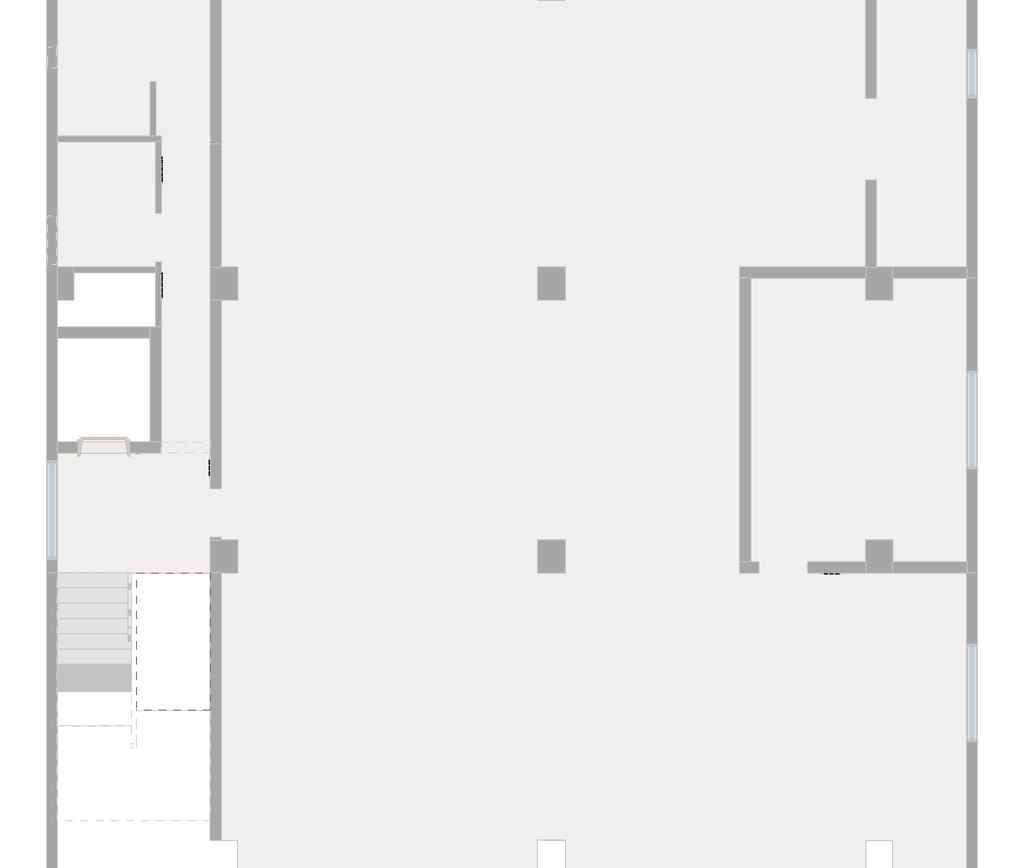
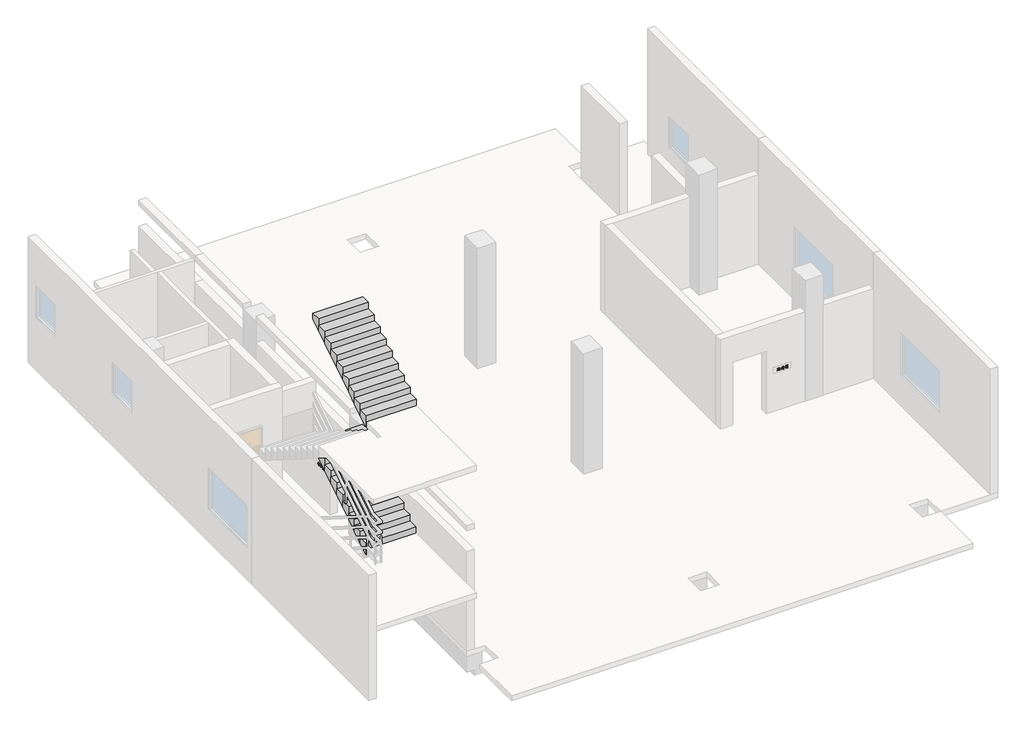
# One storey, part 3 of 3: 4 proxies, 2 stair flights.
"""IFC4 building model written with IfcOpenShell, lengths in millimetres."""

from ifc_helpers import new_model, si_unit, frame, origin, place, context, project, spatial, polyline, outline, extrude, faceted_brep, element, save

model = new_model("IFC4")

# Units and contexts
model_context = context("Model", 3, world=origin())
ifc_project = project(units=[si_unit("LENGTHUNIT", "METRE", prefix="MILLI")], contexts=[model_context])

# Site, building, storey
site = spatial("IfcSite", under=ifc_project)
building = spatial("IfcBuilding", under=site)
storey = spatial("IfcBuildingStorey", under=building, Name="3층", Elevation=7500.0)

# Proxies
placement = place(None, origin())
element("IfcBuildingElementProxy", 1, Name="600 mm Arial", ObjectType="600 mm Arial", at=placement, inside=storey, context=model_context, shape_type="SweptSolid", body=[
    extrude(outline(polyline([(10297.787199, 8717.7990058), (10300.6391665, 8717.0436198), (10301.7028733, 8715.3324394), (10300.7933269, 8713.0508654), (10298.1726, 8711.8792463), (10253.0652656, 8711.8792463), (10249.42708, 8715.3324394), (10253.0652656, 8717.7990058), (10297.787199, 8717.7990058)])), frame((1860.0, 0.0, 0.0), z_axis=(1.0, 0.0, 0.0), x_axis=(0.0, 1.0, 0.0)), (0.0, 0.0, 1.0), 10.0),
    extrude(outline(polyline([(10288.1213416, 8728.6518983), (10291.8366074, 8726.1853318), (10288.3063341, 8722.7321388), (10261.9449049, 8722.7321388), (10258.3067193, 8726.1853318), (10261.9449049, 8728.6518983), (10288.1213416, 8728.6518983)])), frame((1860.0, 0.0, 0.0), z_axis=(1.0, 0.0, 0.0), x_axis=(0.0, 1.0, 0.0)), (0.0, 0.0, 1.0), 10.0),
    extrude(outline(polyline([(10275.711429, 8706.9461133), (10292.0524319, 8702.2133889), (10297.771783, 8691.7921456), (10292.067848, 8680.4151077), (10279.0258777, 8676.3955749), (10279.0258777, 8663.5345434), (10288.8767276, 8664.8140747), (10301.0399835, 8668.4676763), (10305.6031315, 8667.0802327), (10303.5836302, 8662.640413), (10278.9025494, 8657.6147838), (10248.8104384, 8656.6281572), (10245.6501501, 8657.6456159), (10244.4939471, 8660.1275984), (10245.4497416, 8661.869611), (10248.3325412, 8662.5479168), (10258.3837995, 8662.640413), (10271.132865, 8662.9949819), (10271.132865, 8676.7526908), (10258.9696091, 8680.4151077), (10253.3735864, 8691.7921456), (10258.9696091, 8702.2133889), (10275.711429, 8706.9461133)]), holes=[polyline([(10275.711429, 8701.0263538), (10264.5347997, 8698.0356419), (10261.2665991, 8691.7921456), (10264.5502157, 8684.5774386), (10275.711429, 8681.293822), (10286.5643215, 8684.5774386), (10289.8787702, 8691.7921456), (10286.5951536, 8698.051058), (10275.711429, 8701.0263538)])]), frame((1860.0, 0.0, 0.0), z_axis=(1.0, 0.0, 0.0), x_axis=(0.0, 1.0, 0.0)), (0.0, 0.0, 1.0), 10.0),
    extrude(outline(polyline([(10315.5310616, 8693.1333411), (10324.7036057, 8693.1333411), (10327.3243325, 8692.4242032), (10328.3417912, 8690.7130227), (10327.5709892, 8688.3852006), (10325.1815029, 8687.2135815), (10315.5310616, 8687.2135815), (10315.5310616, 8654.4236634), (10314.159034, 8651.6796082), (10311.5383071, 8650.7083977), (10308.8713321, 8651.7104403), (10307.6380489, 8654.5624078), (10307.6380489, 8728.9448031), (10308.8867481, 8730.9488884), (10311.5383071, 8731.6117781), (10314.1282019, 8730.9334723), (10315.5310616, 8729.0218833), (10315.5310616, 8693.1333411)])), frame((1860.0, 0.0, 0.0), z_axis=(1.0, 0.0, 0.0), x_axis=(0.0, 1.0, 0.0)), (0.0, 0.0, 1.0), 10.0),
    extrude(outline(polyline([(10414.1937206, 8708.9193665), (10423.3662647, 8708.9193665), (10425.9869916, 8708.2410607), (10427.0044502, 8706.4990482), (10426.2182322, 8704.1249779), (10423.7516657, 8702.999607), (10414.1937206, 8702.999607), (10414.1937206, 8685.0861679), (10412.821693, 8682.1879523), (10410.2009661, 8681.293822), (10407.5339911, 8682.1879523), (10406.3007079, 8685.1478321), (10406.3007079, 8729.0372993), (10410.2009661, 8731.6117781), (10414.1937206, 8729.1760437), (10414.1937206, 8708.9193665)])), frame((1860.0, 0.0, 0.0), z_axis=(1.0, 0.0, 0.0), x_axis=(0.0, 1.0, 0.0)), (0.0, 0.0, 1.0), 10.0),
    extrude(outline(polyline([(10383.6545444, 8680.3071954), (10407.2873345, 8676.0832003), (10413.207094, 8671.4699502), (10415.1803472, 8665.8623655), (10413.207094, 8659.7460514), (10407.2873345, 8655.024889), (10383.6545444, 8650.7083977), (10359.9138421, 8655.024889), (10354.0056446, 8659.7383434), (10352.0362454, 8665.8623655), (10354.0056446, 8671.4699502), (10359.9138421, 8676.0832003), (10383.6545444, 8680.3071954)]), holes=[polyline([(10383.6545444, 8674.3874359), (10365.1707119, 8671.8437892), (10359.9292581, 8665.9086136), (10365.1707119, 8659.3259643), (10383.6545444, 8656.6281572), (10401.9379684, 8659.3259643), (10407.2873345, 8665.9086136), (10401.9379684, 8671.8437892), (10383.6545444, 8674.3874359)])]), frame((1860.0, 0.0, 0.0), z_axis=(1.0, 0.0, 0.0), x_axis=(0.0, 1.0, 0.0)), (0.0, 0.0, 1.0), 10.0),
    extrude(outline(polyline([(10395.5865598, 8729.6385249), (10398.9626726, 8727.2182066), (10395.5865598, 8723.7187654), (10377.6885368, 8723.7187654), (10377.6885368, 8721.7609282), (10379.3804472, 8712.3802676), (10384.4561785, 8704.6182912), (10399.1784972, 8695.1065943), (10401.382991, 8693.6112383), (10401.1363343, 8691.1138398), (10398.8855924, 8689.2484989), (10395.5248956, 8689.4643234), (10381.4038025, 8698.1898023), (10373.603286, 8709.3201836), (10366.2035866, 8697.6348249), (10351.1883632, 8688.2156242), (10348.2593155, 8688.3543685), (10346.2398142, 8690.2351255), (10345.9931576, 8692.6091957), (10348.1976513, 8694.1199677), (10363.4595314, 8704.2791383), (10368.2115259, 8712.0642388), (10369.795524, 8721.5451037), (10369.795524, 8723.7187654), (10351.8975011, 8723.7187654), (10348.3363957, 8727.2182066), (10351.9899973, 8729.6385249), (10395.5865598, 8729.6385249)])), frame((1860.0, 0.0, 0.0), z_axis=(1.0, 0.0, 0.0), x_axis=(0.0, 1.0, 0.0)), (0.0, 0.0, 1.0), 10.0),
    extrude(outline(polyline([(10515.8162594, 8692.8404363), (10514.4442318, 8690.065549), (10511.869753, 8689.1868347), (10509.1565299, 8690.0809651), (10507.9232467, 8692.8404363), (10507.9232467, 8728.9448031), (10509.1565299, 8730.9488884), (10511.869753, 8731.6117781), (10514.4288158, 8730.9488884), (10515.8162594, 8729.0527154), (10515.8162594, 8692.8404363)])), frame((1860.0, 0.0, 0.0), z_axis=(1.0, 0.0, 0.0), x_axis=(0.0, 1.0, 0.0)), (0.0, 0.0, 1.0), 10.0),
    extrude(outline(polyline([(10506.150402, 8685.2403284), (10513.2571967, 8683.3441554), (10515.8162594, 8678.1181177), (10515.8162594, 8674.0328669), (10513.365109, 8668.5293405), (10507.1986928, 8666.4944231), (10462.0296942, 8666.4944231), (10459.9639448, 8666.0011098), (10459.5785438, 8664.2590973), (10459.5785438, 8660.3280069), (10460.0256089, 8658.2160094), (10461.9063659, 8657.6147838), (10513.8738383, 8657.6147838), (10517.7740965, 8655.1944655), (10516.8799662, 8652.8049792), (10514.2438233, 8651.6950243), (10459.9947769, 8651.6950243), (10454.0904334, 8653.8378539), (10451.685531, 8659.6805332), (10451.685531, 8665.4153003), (10453.9979371, 8670.5334257), (10459.8406165, 8672.4141827), (10505.2871038, 8672.4141827), (10507.3528532, 8672.9691601), (10507.9232467, 8674.834501), (10507.9232467, 8677.3318996), (10507.4607655, 8678.8580876), (10505.2100236, 8679.3205688), (10455.5241251, 8679.3205688), (10451.685531, 8682.7891779), (10455.5395412, 8685.2403284), (10506.150402, 8685.2403284)])), frame((1860.0, 0.0, 0.0), z_axis=(1.0, 0.0, 0.0), x_axis=(0.0, 1.0, 0.0)), (0.0, 0.0, 1.0), 10.0),
    extrude(outline(polyline([(10465.4983033, 8726.7865574), (10466.7624186, 8728.9756352), (10469.3985615, 8729.6385249), (10472.0038724, 8728.9756352), (10473.391316, 8726.7865574), (10472.63593, 8721.0826225), (10470.9555816, 8715.6407602), (10484.5062812, 8706.4682161), (10495.1433491, 8694.3666243), (10495.8987351, 8692.2083786), (10494.4342113, 8689.7263961), (10491.7364042, 8689.0789224), (10488.9461009, 8690.7901029), (10479.3573237, 8702.0283964), (10468.5506793, 8710.1526498), (10461.1201478, 8699.2380931), (10449.1573004, 8688.0306317), (10446.1049244, 8687.2598297), (10443.8233504, 8688.7089375), (10443.1758767, 8691.206336), (10445.1491299, 8693.117925), (10460.7501628, 8710.8463716), (10465.4983033, 8726.7865574)])), frame((1860.0, 0.0, 0.0), z_axis=(1.0, 0.0, 0.0), x_axis=(0.0, 1.0, 0.0)), (0.0, 0.0, 1.0), 10.0),
    extrude(outline(polyline([(10556.6225185, 8735.2345476), (10559.3665737, 8736.4678308), (10562.0797969, 8735.9899336), (10563.7601453, 8734.2787531), (10563.1435037, 8731.3497054), (10553.4313982, 8712.4804719), (10550.3481901, 8691.6379851), (10553.1539094, 8670.2713531), (10562.9893433, 8651.957097), (10564.0684661, 8649.290122), (10562.6810224, 8646.5460668), (10559.7673908, 8645.5286081), (10556.6995987, 8647.2089565), (10545.5846336, 8667.8818668), (10542.4551773, 8691.6379851), (10545.7850421, 8714.052908), (10556.6225185, 8735.2345476)])), frame((1860.0, 0.0, 0.0), z_axis=(1.0, 0.0, 0.0), x_axis=(0.0, 1.0, 0.0)), (0.0, 0.0, 1.0), 10.0),
    extrude(outline(polyline([(10604.7513969, 8728.6518983), (10614.5598527, 8726.0350255), (10621.7552895, 8718.1844068), (10625.3973917, 8708.5766763), (10626.4263498, 8710.2143139), (10629.4324777, 8710.8926197), (10644.0777161, 8710.8926197), (10644.0777161, 8728.8060587), (10645.2955833, 8730.8563921), (10648.0242225, 8731.6117781), (10650.6141173, 8730.9488884), (10651.9707289, 8728.8368908), (10651.9707289, 8654.6549041), (10650.6449494, 8651.7258564), (10648.0242225, 8650.7083977), (10645.2647513, 8651.7412724), (10644.0777161, 8654.6857361), (10644.0777161, 8678.3339422), (10629.2629013, 8678.3339422), (10625.8552008, 8680.4777179), (10621.7552895, 8669.6547114), (10614.4211083, 8661.3647357), (10604.7513969, 8658.6014104), (10594.9082551, 8661.3647357), (10587.4545995, 8669.6547114), (10583.3038306, 8680.6270782), (10581.920241, 8694.0274714), (10583.3038306, 8707.2197481), (10587.4545995, 8718.1844068), (10594.7695107, 8726.0350255), (10604.7513969, 8728.6518983)]), holes=[polyline([(10626.2062694, 8683.4271544), (10629.2629013, 8684.2537018), (10644.0777161, 8684.2537018), (10644.0777161, 8704.9728602), (10629.5249739, 8704.9728602), (10625.9314286, 8707.0731936), (10627.3050641, 8694.0274714), (10626.2062694, 8683.4271544)]), polyline([(10604.7051488, 8722.7321388), (10598.4115503, 8720.6432653), (10593.6210157, 8714.3766448), (10589.8132537, 8694.0737195), (10593.6210157, 8673.5241376), (10598.5425866, 8666.7719119), (10604.7051488, 8664.52117), (10610.7174046, 8666.7719119), (10615.5888734, 8673.5241376), (10619.4120514, 8694.0737195), (10615.5888734, 8714.3766448), (10610.8484409, 8720.6432653), (10604.7051488, 8722.7321388)])]), frame((1860.0, 0.0, 0.0), z_axis=(1.0, 0.0, 0.0), x_axis=(0.0, 1.0, 0.0)), (0.0, 0.0, 1.0), 10.0),
    extrude(outline(polyline([(10683.1265467, 8735.2345476), (10693.902359, 8714.052908), (10697.355552, 8691.6379851), (10694.1027675, 8667.8818668), (10683.0802985, 8647.2089565), (10679.9200102, 8645.5286081), (10676.9909626, 8646.5460668), (10675.618935, 8649.290122), (10676.8059701, 8651.957097), (10686.5334916, 8670.2713531), (10689.4625393, 8691.6379851), (10686.2560029, 8712.4804719), (10676.6363936, 8731.3342894), (10675.9118397, 8734.2787531), (10677.6076042, 8735.9899336), (10680.2899952, 8736.4678308), (10683.1265467, 8735.2345476)])), frame((1860.0, 0.0, 0.0), z_axis=(1.0, 0.0, 0.0), x_axis=(0.0, 1.0, 0.0)), (0.0, 0.0, 1.0), 10.0),
])
element("IfcBuildingElementProxy", 2, Name="600 mm Arial", ObjectType="600 mm Arial", at=placement, inside=storey, context=model_context, shape_type="SweptSolid", body=[
    extrude(outline(polyline([(12417.787199, 8717.7990058), (12420.6391665, 8717.0436198), (12421.7028733, 8715.3324394), (12420.7933269, 8713.0508654), (12418.1726, 8711.8792463), (12373.0652656, 8711.8792463), (12369.42708, 8715.3324394), (12373.0652656, 8717.7990058), (12417.787199, 8717.7990058)])), frame((1860.0, 0.0, 0.0), z_axis=(1.0, 0.0, 0.0), x_axis=(0.0, 1.0, 0.0)), (0.0, 0.0, 1.0), 10.0),
    extrude(outline(polyline([(12408.1213416, 8728.6518983), (12411.8366074, 8726.1853318), (12408.3063341, 8722.7321388), (12381.9449049, 8722.7321388), (12378.3067193, 8726.1853318), (12381.9449049, 8728.6518983), (12408.1213416, 8728.6518983)])), frame((1860.0, 0.0, 0.0), z_axis=(1.0, 0.0, 0.0), x_axis=(0.0, 1.0, 0.0)), (0.0, 0.0, 1.0), 10.0),
    extrude(outline(polyline([(12395.711429, 8706.9461133), (12412.0524319, 8702.2133889), (12417.771783, 8691.7921456), (12412.067848, 8680.4151077), (12399.0258777, 8676.3955749), (12399.0258777, 8663.5345434), (12408.8767276, 8664.8140747), (12421.0399835, 8668.4676763), (12425.6031315, 8667.0802327), (12423.5836302, 8662.640413), (12398.9025494, 8657.6147838), (12368.8104384, 8656.6281572), (12365.6501501, 8657.6456159), (12364.4939471, 8660.1275984), (12365.4497416, 8661.869611), (12368.3325412, 8662.5479168), (12378.3837995, 8662.640413), (12391.132865, 8662.9949819), (12391.132865, 8676.7526908), (12378.9696091, 8680.4151077), (12373.3735864, 8691.7921456), (12378.9696091, 8702.2133889), (12395.711429, 8706.9461133)]), holes=[polyline([(12395.711429, 8701.0263538), (12384.5347997, 8698.0356419), (12381.2665991, 8691.7921456), (12384.5502157, 8684.5774386), (12395.711429, 8681.293822), (12406.5643215, 8684.5774386), (12409.8787702, 8691.7921456), (12406.5951536, 8698.051058), (12395.711429, 8701.0263538)])]), frame((1860.0, 0.0, 0.0), z_axis=(1.0, 0.0, 0.0), x_axis=(0.0, 1.0, 0.0)), (0.0, 0.0, 1.0), 10.0),
    extrude(outline(polyline([(12435.5310616, 8693.1333411), (12444.7036057, 8693.1333411), (12447.3243325, 8692.4242032), (12448.3417912, 8690.7130227), (12447.5709892, 8688.3852006), (12445.1815029, 8687.2135815), (12435.5310616, 8687.2135815), (12435.5310616, 8654.4236634), (12434.159034, 8651.6796082), (12431.5383071, 8650.7083977), (12428.8713321, 8651.7104403), (12427.6380489, 8654.5624078), (12427.6380489, 8728.9448031), (12428.8867481, 8730.9488884), (12431.5383071, 8731.6117781), (12434.1282019, 8730.9334723), (12435.5310616, 8729.0218833), (12435.5310616, 8693.1333411)])), frame((1860.0, 0.0, 0.0), z_axis=(1.0, 0.0, 0.0), x_axis=(0.0, 1.0, 0.0)), (0.0, 0.0, 1.0), 10.0),
    extrude(outline(polyline([(12534.1937206, 8708.9193665), (12543.3662647, 8708.9193665), (12545.9869916, 8708.2410607), (12547.0044502, 8706.4990482), (12546.2182322, 8704.1249779), (12543.7516657, 8702.999607), (12534.1937206, 8702.999607), (12534.1937206, 8685.0861679), (12532.821693, 8682.1879523), (12530.2009661, 8681.293822), (12527.5339911, 8682.1879523), (12526.3007079, 8685.1478321), (12526.3007079, 8729.0372993), (12530.2009661, 8731.6117781), (12534.1937206, 8729.1760437), (12534.1937206, 8708.9193665)])), frame((1860.0, 0.0, 0.0), z_axis=(1.0, 0.0, 0.0), x_axis=(0.0, 1.0, 0.0)), (0.0, 0.0, 1.0), 10.0),
    extrude(outline(polyline([(12503.6545444, 8680.3071954), (12527.2873345, 8676.0832003), (12533.207094, 8671.4699502), (12535.1803472, 8665.8623655), (12533.207094, 8659.7460514), (12527.2873345, 8655.024889), (12503.6545444, 8650.7083977), (12479.9138421, 8655.024889), (12474.0056446, 8659.7383434), (12472.0362454, 8665.8623655), (12474.0056446, 8671.4699502), (12479.9138421, 8676.0832003), (12503.6545444, 8680.3071954)]), holes=[polyline([(12503.6545444, 8674.3874359), (12485.1707119, 8671.8437892), (12479.9292581, 8665.9086136), (12485.1707119, 8659.3259643), (12503.6545444, 8656.6281572), (12521.9379684, 8659.3259643), (12527.2873345, 8665.9086136), (12521.9379684, 8671.8437892), (12503.6545444, 8674.3874359)])]), frame((1860.0, 0.0, 0.0), z_axis=(1.0, 0.0, 0.0), x_axis=(0.0, 1.0, 0.0)), (0.0, 0.0, 1.0), 10.0),
    extrude(outline(polyline([(12515.5865598, 8729.6385249), (12518.9626726, 8727.2182066), (12515.5865598, 8723.7187654), (12497.6885368, 8723.7187654), (12497.6885368, 8721.7609282), (12499.3804472, 8712.3802676), (12504.4561785, 8704.6182912), (12519.1784972, 8695.1065943), (12521.382991, 8693.6112383), (12521.1363343, 8691.1138398), (12518.8855924, 8689.2484989), (12515.5248956, 8689.4643234), (12501.4038025, 8698.1898023), (12493.603286, 8709.3201836), (12486.2035866, 8697.6348249), (12471.1883632, 8688.2156242), (12468.2593155, 8688.3543685), (12466.2398142, 8690.2351255), (12465.9931576, 8692.6091957), (12468.1976513, 8694.1199677), (12483.4595314, 8704.2791383), (12488.2115259, 8712.0642388), (12489.795524, 8721.5451037), (12489.795524, 8723.7187654), (12471.8975011, 8723.7187654), (12468.3363957, 8727.2182066), (12471.9899973, 8729.6385249), (12515.5865598, 8729.6385249)])), frame((1860.0, 0.0, 0.0), z_axis=(1.0, 0.0, 0.0), x_axis=(0.0, 1.0, 0.0)), (0.0, 0.0, 1.0), 10.0),
    extrude(outline(polyline([(12635.8162594, 8692.8404363), (12634.4442318, 8690.065549), (12631.869753, 8689.1868347), (12629.1565299, 8690.0809651), (12627.9232467, 8692.8404363), (12627.9232467, 8728.9448031), (12629.1565299, 8730.9488884), (12631.869753, 8731.6117781), (12634.4288158, 8730.9488884), (12635.8162594, 8729.0527154), (12635.8162594, 8692.8404363)])), frame((1860.0, 0.0, 0.0), z_axis=(1.0, 0.0, 0.0), x_axis=(0.0, 1.0, 0.0)), (0.0, 0.0, 1.0), 10.0),
    extrude(outline(polyline([(12626.150402, 8685.2403284), (12633.2571967, 8683.3441554), (12635.8162594, 8678.1181177), (12635.8162594, 8674.0328669), (12633.365109, 8668.5293405), (12627.1986928, 8666.4944231), (12582.0296942, 8666.4944231), (12579.9639448, 8666.0011098), (12579.5785438, 8664.2590973), (12579.5785438, 8660.3280069), (12580.0256089, 8658.2160094), (12581.9063659, 8657.6147838), (12633.8738383, 8657.6147838), (12637.7740965, 8655.1944655), (12636.8799662, 8652.8049792), (12634.2438233, 8651.6950243), (12579.9947769, 8651.6950243), (12574.0904334, 8653.8378539), (12571.685531, 8659.6805332), (12571.685531, 8665.4153003), (12573.9979371, 8670.5334257), (12579.8406165, 8672.4141827), (12625.2871038, 8672.4141827), (12627.3528532, 8672.9691601), (12627.9232467, 8674.834501), (12627.9232467, 8677.3318996), (12627.4607655, 8678.8580876), (12625.2100236, 8679.3205688), (12575.5241251, 8679.3205688), (12571.685531, 8682.7891779), (12575.5395412, 8685.2403284), (12626.150402, 8685.2403284)])), frame((1860.0, 0.0, 0.0), z_axis=(1.0, 0.0, 0.0), x_axis=(0.0, 1.0, 0.0)), (0.0, 0.0, 1.0), 10.0),
    extrude(outline(polyline([(12585.4983033, 8726.7865574), (12586.7624186, 8728.9756352), (12589.3985615, 8729.6385249), (12592.0038724, 8728.9756352), (12593.391316, 8726.7865574), (12592.63593, 8721.0826225), (12590.9555816, 8715.6407602), (12604.5062812, 8706.4682161), (12615.1433491, 8694.3666243), (12615.8987351, 8692.2083786), (12614.4342113, 8689.7263961), (12611.7364042, 8689.0789224), (12608.9461009, 8690.7901029), (12599.3573237, 8702.0283964), (12588.5506793, 8710.1526498), (12581.1201478, 8699.2380931), (12569.1573004, 8688.0306317), (12566.1049244, 8687.2598297), (12563.8233504, 8688.7089375), (12563.1758767, 8691.206336), (12565.1491299, 8693.117925), (12580.7501628, 8710.8463716), (12585.4983033, 8726.7865574)])), frame((1860.0, 0.0, 0.0), z_axis=(1.0, 0.0, 0.0), x_axis=(0.0, 1.0, 0.0)), (0.0, 0.0, 1.0), 10.0),
    extrude(outline(polyline([(12676.6225185, 8735.2345476), (12679.3665737, 8736.4678308), (12682.0797969, 8735.9899336), (12683.7601453, 8734.2787531), (12683.1435037, 8731.3497054), (12673.4313982, 8712.4804719), (12670.3481901, 8691.6379851), (12673.1539094, 8670.2713531), (12682.9893433, 8651.957097), (12684.0684661, 8649.290122), (12682.6810224, 8646.5460668), (12679.7673908, 8645.5286081), (12676.6995987, 8647.2089565), (12665.5846336, 8667.8818668), (12662.4551773, 8691.6379851), (12665.7850421, 8714.052908), (12676.6225185, 8735.2345476)])), frame((1860.0, 0.0, 0.0), z_axis=(1.0, 0.0, 0.0), x_axis=(0.0, 1.0, 0.0)), (0.0, 0.0, 1.0), 10.0),
    extrude(outline(polyline([(12702.9068676, 8726.8019735), (12704.1401508, 8728.8831389), (12706.8071258, 8729.6385249), (12709.4124366, 8728.9756352), (12710.7998803, 8726.8944697), (12710.7998803, 8702.5525418), (12711.9406673, 8698.4981232), (12715.7792613, 8697.0798474), (12734.3710062, 8697.7581532), (12752.1919489, 8699.9934791), (12755.4909816, 8699.947231), (12757.1250819, 8698.451875), (12756.8321771, 8696.0161406), (12754.3193625, 8694.1507997), (12735.3730488, 8691.8538097), (12713.75976, 8691.1600879), (12705.758835, 8694.4899526), (12702.9068676, 8702.4446295), (12702.9068676, 8726.8019735)])), frame((1860.0, 0.0, 0.0), z_axis=(1.0, 0.0, 0.0), x_axis=(0.0, 1.0, 0.0)), (0.0, 0.0, 1.0), 10.0),
    extrude(outline(polyline([(12769.0108491, 8708.9193665), (12778.3838017, 8708.9193665), (12781.8369948, 8706.4990482), (12778.3838017, 8702.999607), (12769.0108491, 8702.999607), (12769.0108491, 8691.0675917), (12767.6542375, 8688.2002081), (12765.0180946, 8687.2135815), (12762.3511196, 8688.2002081), (12761.1178364, 8691.0367596), (12761.1178364, 8729.0527154), (12765.0180946, 8731.6117781), (12769.0108491, 8729.0835475), (12769.0108491, 8708.9193665)])), frame((1860.0, 0.0, 0.0), z_axis=(1.0, 0.0, 0.0), x_axis=(0.0, 1.0, 0.0)), (0.0, 0.0, 1.0), 10.0),
    extrude(outline(polyline([(12759.3912398, 8681.293822), (12766.3284581, 8679.4593132), (12769.0108491, 8674.5570123), (12769.0108491, 8661.0833929), (12766.3592901, 8654.7319843), (12759.7766409, 8652.6816509), (12717.8450108, 8652.6816509), (12710.1369905, 8655.0557211), (12707.8400005, 8661.5612902), (12707.8400005, 8674.1716113), (12710.2449028, 8679.2743207), (12716.5963115, 8681.293822), (12759.3912398, 8681.293822)]), holes=[polyline([(12761.1178364, 8673.0924885), (12760.4703627, 8674.8807492), (12757.8342198, 8675.3740624), (12718.6312288, 8675.3740624), (12716.1646624, 8674.7728369), (12715.7330132, 8672.907496), (12715.7330132, 8662.0546035), (12716.3188228, 8659.3722124), (12719.0166298, 8658.6014104), (12758.0192122, 8658.6014104), (12760.4703627, 8659.2797162), (12761.1178364, 8661.6692025), (12761.1178364, 8673.0924885)])]), frame((1860.0, 0.0, 0.0), z_axis=(1.0, 0.0, 0.0), x_axis=(0.0, 1.0, 0.0)), (0.0, 0.0, 1.0), 10.0),
    extrude(outline(polyline([(12803.1265467, 8735.2345476), (12813.902359, 8714.052908), (12817.355552, 8691.6379851), (12814.1027675, 8667.8818668), (12803.0802985, 8647.2089565), (12799.9200102, 8645.5286081), (12796.9909626, 8646.5460668), (12795.618935, 8649.290122), (12796.8059701, 8651.957097), (12806.5334916, 8670.2713531), (12809.4625393, 8691.6379851), (12806.2560029, 8712.4804719), (12796.6363936, 8731.3342894), (12795.9118397, 8734.2787531), (12797.6076042, 8735.9899336), (12800.2899952, 8736.4678308), (12803.1265467, 8735.2345476)])), frame((1860.0, 0.0, 0.0), z_axis=(1.0, 0.0, 0.0), x_axis=(0.0, 1.0, 0.0)), (0.0, 0.0, 1.0), 10.0),
])
element("IfcBuildingElementProxy", 3, Name="600 mm Arial", ObjectType="600 mm Arial", at=placement, inside=storey, context=model_context, shape_type="SweptSolid", body=[
    extrude(outline(polyline([(7188.5637707, 8686.2433766), (7189.7662218, 8692.1477201), (7201.4361645, 8692.1477201), (7202.5615354, 8722.7331444), (7211.3178464, 8721.6540216), (7210.1924755, 8643.8030172), (7201.4361645, 8644.9129721), (7201.4361645, 8685.241334), (7188.5637707, 8686.2433766)])), frame((2730.0, 0.0, 0.0), z_axis=(1.0, 0.0, 0.0), x_axis=(0.0, 1.0, 0.0)), (0.0, 0.0, 1.0), 10.0),
    extrude(outline(polyline([(7258.8609152, 8662.5489224), (7254.189855, 8667.0581142), (7249.5958749, 8672.7235091), (7245.3872959, 8679.2059541), (7241.8724386, 8686.2433766), (7238.951099, 8680.5163176), (7235.0508407, 8674.7584264), (7230.6264371, 8669.5555128), (7226.2405736, 8665.5088022), (7223.4965184, 8665.6783786), (7219.8891649, 8669.8715416), (7220.0741574, 8672.4151883), (7225.6085159, 8677.4562335), (7230.7960135, 8683.9078465), (7234.9968846, 8691.2073416), (7237.6638596, 8698.7920335), (7236.5461966, 8707.5020964), (7237.3247067, 8718.5245654), (7246.1580979, 8717.5071067), (7246.2505941, 8710.3386479), (7246.8518197, 8703.8176627), (7248.0080227, 8697.6358305), (7249.7654514, 8691.5002464), (7256.11686, 8679.5913551), (7265.643973, 8669.4553085), (7265.9060457, 8666.6341731), (7261.8670431, 8662.6414186), (7258.8609152, 8662.5489224)])), frame((2730.0, 0.0, 0.0), z_axis=(1.0, 0.0, 0.0), x_axis=(0.0, 1.0, 0.0)), (0.0, 0.0, 1.0), 10.0),
    extrude(outline(polyline([(7085.1838033, 8673.5713913), (7086.4787507, 8679.3215744), (7162.4335821, 8678.2424516), (7161.2311309, 8672.4151883), (7128.6107893, 8672.4151883), (7128.6107893, 8645.0208844), (7127.4083381, 8643.8030172), (7119.9469745, 8643.8030172), (7118.7445234, 8645.0208844), (7118.7445234, 8672.4151883), (7085.1838033, 8673.5713913)])), frame((2730.0, 0.0, 0.0), z_axis=(1.0, 0.0, 0.0), x_axis=(0.0, 1.0, 0.0)), (0.0, 0.0, 1.0), 10.0),
    extrude(outline(polyline([(7096.6841695, 8695.2309282), (7096.6841695, 8716.6900565), (7098.017657, 8721.438197), (7103.2051546, 8722.7331444), (7144.9209601, 8722.7331444), (7149.6074364, 8721.3996569), (7151.0257121, 8716.7825528), (7151.0257121, 8695.3080084), (7149.6922246, 8690.567576), (7144.489311, 8689.1878403), (7102.7735054, 8689.1878403), (7098.1024452, 8690.567576), (7096.6841695, 8695.2309282)]), holes=[polyline([(7106.5504354, 8714.5318109), (7107.6758063, 8696.0942265), (7141.06695, 8697.4970861), (7139.941579, 8715.8267583), (7106.5504354, 8714.5318109)])]), frame((2730.0, 0.0, 0.0), z_axis=(1.0, 0.0, 0.0), x_axis=(0.0, 1.0, 0.0)), (0.0, 0.0, 1.0), 10.0),
    extrude(outline(polyline([(6987.2919463, 8644.8513079), (6988.4943974, 8650.7094033), (7030.0406265, 8651.9426865), (7029.0077518, 8657.6157894), (6995.3699515, 8657.6157894), (6990.6834752, 8658.6640802), (6989.5272721, 8662.5489224), (6989.5272721, 8672.3381081), (6990.6834752, 8676.2152423), (6995.3699515, 8677.3483212), (7039.9068924, 8676.3000305), (7038.7198573, 8670.4419351), (6999.1468814, 8669.1007396), (7000.1797561, 8664.5221756), (7034.0796291, 8664.5221756), (7038.5811129, 8663.2966004), (7039.7373159, 8659.357802), (7039.7373159, 8649.0444709), (7038.5348648, 8645.0748405), (7033.9871328, 8643.8030172), (6987.2919463, 8644.8513079)])), frame((2730.0, 0.0, 0.0), z_axis=(1.0, 0.0, 0.0), x_axis=(0.0, 1.0, 0.0)), (0.0, 0.0, 1.0), 10.0),
    extrude(outline(polyline([(7049.0948525, 8681.2948276), (7038.6736091, 8688.5557827), (7031.0735012, 8698.1291438), (7023.388605, 8690.0203065), (7013.8229519, 8684.2547074), (7011.587626, 8684.886765), (7008.6739944, 8689.1724243), (7009.1827237, 8691.1610935), (7014.0310685, 8693.6893241), (7018.9719094, 8697.2889696), (7023.5196414, 8701.8521176), (7027.1269948, 8707.0704473), (7025.9245437, 8713.2908196), (7025.4928945, 8720.1124175), (7026.6028495, 8721.4073649), (7035.3591604, 8720.4669865), (7039.9993886, 8701.1198557), (7055.2766847, 8685.7192312), (7051.8389077, 8681.3873239), (7049.0948525, 8681.2948276)])), frame((2730.0, 0.0, 0.0), z_axis=(1.0, 0.0, 0.0), x_axis=(0.0, 1.0, 0.0)), (0.0, 0.0, 1.0), 10.0),
    extrude(outline(polyline([(6989.5272721, 8682.3739504), (6990.637227, 8722.7331444), (6999.393538, 8721.6540216), (6999.393538, 8682.4664467), (6998.2835831, 8681.2948276), (6989.5272721, 8682.3739504)])), frame((2730.0, 0.0, 0.0), z_axis=(1.0, 0.0, 0.0), x_axis=(0.0, 1.0, 0.0)), (0.0, 0.0, 1.0), 10.0),
])
element("IfcBuildingElementProxy", 4, Name="600 mm Arial", ObjectType="600 mm Arial", at=placement, inside=storey, context=model_context, shape_type="SweptSolid", body=[
    extrude(outline(polyline([(8659.5359352, 13989.4811699), (8653.8320002, 13990.7607013), (8653.8320002, 14004.0724522), (8653.8320002, 14018.44791), (8654.4332258, 14032.1373539), (8657.1156169, 14044.5010184), (8662.7116396, 14042.3581887), (8661.5400205, 14032.4456747), (8660.7383864, 14021.4077897), (8668.6313991, 14021.4077897), (8670.3348716, 14027.1117247), (8673.2947513, 14031.6671647), (8677.2875058, 14034.7118327), (8682.1975147, 14035.8217876), (8687.9014497, 14034.3649718), (8692.3489774, 14030.3336772), (8695.2163609, 14024.2828813), (8696.2569436, 14016.8600578), (8695.2240689, 14009.5605626), (8692.3721014, 14003.5560149), (8687.9476978, 13999.4784722), (8682.2745949, 13997.9754082), (8677.4031261, 13999.0082829), (8673.3872476, 14001.8833745), (8670.4119518, 14006.26153), (8668.6313991, 14011.7881805), (8660.7383864, 14011.7881805), (8660.5302698, 14001.0277842), (8660.599642, 13990.7607013), (8659.5359352, 13989.4811699)]), holes=[polyline([(8689.3505575, 14016.8600578), (8687.4235524, 14023.8512322), (8682.4904195, 14026.5567473), (8677.5110384, 14023.8512322), (8675.5377852, 14016.8600578), (8677.5110384, 14009.9459636), (8682.4904195, 14007.2404485), (8687.4235524, 14009.9922118), (8689.3505575, 14016.8600578)])]), frame((0.0, 5180.0, 0.0), z_axis=(0.0, 1.0, 0.0), x_axis=(0.0, 0.0, 1.0)), (0.0, 0.0, 1.0), 10.0),
    extrude(outline(polyline([(8641.0983508, 14057.4659084), (8717.8702324, 14057.4659084), (8718.9493552, 14056.2634572), (8717.8702324, 14047.5071463), (8640.019228, 14048.7095974), (8640.019228, 14056.2634572), (8641.0983508, 14057.4659084)])), frame((0.0, 5180.0, 0.0), z_axis=(0.0, 1.0, 0.0), x_axis=(0.0, 0.0, 1.0)), (0.0, 0.0, 1.0), 10.0),
    extrude(outline(polyline([(8701.3904851, 14040.2924393), (8707.1098361, 14038.9974919), (8705.922801, 13992.3023053), (8700.20345, 13993.5972527), (8701.3904851, 14040.2924393)])), frame((0.0, 5180.0, 0.0), z_axis=(0.0, 1.0, 0.0), x_axis=(0.0, 0.0, 1.0)), (0.0, 0.0, 1.0), 10.0),
    extrude(outline(polyline([(8712.382122, 14029.2237223), (8717.9627286, 14027.8516947), (8716.7911095, 14003.7255913), (8711.0563425, 14005.0976189), (8712.382122, 14029.2237223)])), frame((0.0, 5180.0, 0.0), z_axis=(0.0, 1.0, 0.0), x_axis=(0.0, 0.0, 1.0)), (0.0, 0.0, 1.0), 10.0),
    extrude(outline(polyline([(8641.0983508, 14162.048327), (8717.8702324, 14162.048327), (8718.9493552, 14160.8458758), (8717.8702324, 14152.0895648), (8640.019228, 14153.292016), (8640.019228, 14160.8458758), (8641.0983508, 14162.048327)])), frame((0.0, 5180.0, 0.0), z_axis=(0.0, 1.0, 0.0), x_axis=(0.0, 0.0, 1.0)), (0.0, 0.0, 1.0), 10.0),
    extrude(outline(polyline([(8714.0162222, 14119.9779525), (8712.6364866, 14111.784327), (8708.7131043, 14105.1785537), (8702.5775202, 14100.7541501), (8694.6536754, 14099.1200498), (8686.6835825, 14100.7541501), (8680.6713267, 14105.1785537), (8676.8712727, 14111.7457869), (8675.5377852, 14119.9008723), (8676.8712727, 14128.1792861), (8680.6713267, 14134.8313075), (8686.6835825, 14139.2942512), (8694.6536754, 14140.9283515), (8702.5775202, 14139.2942512), (8708.7131043, 14134.8313075), (8712.6364866, 14128.1792861), (8714.0162222, 14119.9779525)]), holes=[polyline([(8707.1098361, 14119.9779525), (8703.7876794, 14128.2255342), (8694.8232519, 14131.4012385), (8685.7663281, 14128.2255342), (8682.4441714, 14119.9779525), (8685.7663281, 14111.9153634), (8694.8232519, 14108.739659), (8703.7876794, 14111.9153634), (8707.1098361, 14119.9779525)])]), frame((0.0, 5180.0, 0.0), z_axis=(0.0, 1.0, 0.0), x_axis=(0.0, 0.0, 1.0)), (0.0, 0.0, 1.0), 10.0),
    extrude(outline(polyline([(8663.6211859, 14094.0635885), (8657.7785066, 14095.3431198), (8657.7322585, 14108.5700826), (8658.1253675, 14122.7759639), (8659.1967823, 14136.2958314), (8662.0795819, 14148.6517878), (8667.6447725, 14146.5089582), (8666.0800444, 14134.8390155), (8665.0317536, 14121.7430892), (8664.6001045, 14108.2232217), (8663.6211859, 14094.0635885)])), frame((0.0, 5180.0, 0.0), z_axis=(0.0, 1.0, 0.0), x_axis=(0.0, 0.0, 1.0)), (0.0, 0.0, 1.0), 10.0),
    extrude(outline(polyline([(8641.0675187, 14268.0027731), (8646.9256141, 14266.800322), (8648.1588973, 14225.2540929), (8653.8320002, 14226.2869676), (8653.8320002, 14259.9247679), (8654.880291, 14264.6112442), (8658.7651332, 14265.7674473), (8668.5543189, 14265.7674473), (8672.4314531, 14264.6112442), (8673.564532, 14259.9247679), (8672.5162413, 14215.387827), (8666.6581459, 14216.5748621), (8665.3169504, 14256.147838), (8660.7383864, 14255.1149633), (8660.7383864, 14221.2150903), (8659.5128112, 14216.7136065), (8655.5740128, 14215.5574035), (8645.2606817, 14215.5574035), (8641.2910513, 14216.7598546), (8640.019228, 14221.3075866), (8641.0675187, 14268.0027731)])), frame((0.0, 5180.0, 0.0), z_axis=(0.0, 1.0, 0.0), x_axis=(0.0, 0.0, 1.0)), (0.0, 0.0, 1.0), 10.0),
    extrude(outline(polyline([(8677.5110384, 14206.1998669), (8684.7719935, 14216.6211103), (8694.3453546, 14224.2212182), (8686.2365173, 14231.9061144), (8680.4709182, 14241.4717675), (8681.1029758, 14243.7070934), (8685.3886351, 14246.620725), (8687.3773043, 14246.1119957), (8689.9055349, 14241.2636509), (8693.5051804, 14236.32281), (8698.0683284, 14231.775078), (8703.2866581, 14228.1677246), (8709.5070304, 14229.3701757), (8716.3286283, 14229.8018249), (8717.6235757, 14228.6918699), (8716.6831972, 14219.935559), (8697.3360665, 14215.2953308), (8681.935442, 14200.0180347), (8677.6035346, 14203.4558117), (8677.5110384, 14206.1998669)])), frame((0.0, 5180.0, 0.0), z_axis=(0.0, 1.0, 0.0), x_axis=(0.0, 0.0, 1.0)), (0.0, 0.0, 1.0), 10.0),
    extrude(outline(polyline([(8678.5901612, 14265.7674473), (8718.9493552, 14264.6574924), (8717.8702324, 14255.9011814), (8678.6826575, 14255.9011814), (8677.5110384, 14257.0111363), (8678.5901612, 14265.7674473)])), frame((0.0, 5180.0, 0.0), z_axis=(0.0, 1.0, 0.0), x_axis=(0.0, 0.0, 1.0)), (0.0, 0.0, 1.0), 10.0),
])

# Stair flights
element("IfcStairFlight", 5, ObjectType="일체형 계단진행 150mm_철근콘크리트", at=placement, inside=storey, context=model_context, shape_type="Brep", body=[
    faceted_brep([(1400.2430136, 2680.0, 9627.2727273), (2750.0, 2680.0, 9627.2727273), (2750.0, 2723.4918734, 9627.2727273), (2750.0, 2960.0, 9627.2727273), (1400.2430136, 2960.0, 9627.2727273), (1400.2430136, 2723.4918734, 9627.2727273), (1400.2430136, 2960.0, 9449.7372879), (1400.2430136, 2723.4918734, 9300.0), (1400.2430136, 2680.0, 9300.0), (1400.2430136, 2680.0, 9450.0), (2750.0, 2680.0, 9300.0), (2750.0, 2680.0, 9450.0), (2750.0, 2723.4918734, 9300.0), (2750.0, 2960.0, 9449.7372879), (1400.2430136, 3240.0, 9804.5454545), (1400.2430136, 2960.0, 9804.5454545), (2750.0, 2960.0, 9804.5454545), (2750.0, 3240.0, 9804.5454545), (1400.2430136, 3240.0, 9627.0100152), (2750.0, 3240.0, 9627.0100152), (1400.2430136, 3520.0, 9981.8181818), (1400.2430136, 3240.0, 9981.8181818), (2750.0, 3240.0, 9981.8181818), (2750.0, 3520.0, 9981.8181818), (1400.2430136, 3520.0, 9804.2827425), (2750.0, 3520.0, 9804.2827425), (1400.2430136, 3800.0, 10159.0909091), (1400.2430136, 3520.0, 10159.0909091), (2750.0, 3520.0, 10159.0909091), (2750.0, 3800.0, 10159.0909091), (1400.2430136, 3800.0, 9981.5554697), (2750.0, 3800.0, 9981.5554697), (1400.2430136, 4080.0, 10336.3636364), (1400.2430136, 3800.0, 10336.3636364), (2750.0, 3800.0, 10336.3636364), (2750.0, 4080.0, 10336.3636364), (1400.2430136, 4080.0, 10158.828197), (2750.0, 4080.0, 10158.828197), (1400.2430136, 4360.0, 10513.6363636), (1400.2430136, 4080.0, 10513.6363636), (2750.0, 4080.0, 10513.6363636), (2750.0, 4360.0, 10513.6363636), (1400.2430136, 4360.0, 10336.1009243), (2750.0, 4360.0, 10336.1009243), (1400.2430136, 4640.0, 10690.9090909), (1400.2430136, 4360.0, 10690.9090909), (2750.0, 4360.0, 10690.9090909), (2750.0, 4640.0, 10690.9090909), (1400.2430136, 4640.0, 10513.3736516), (2750.0, 4640.0, 10513.3736516), (1400.2430136, 4920.0, 10868.1818182), (1400.2430136, 4640.0, 10868.1818182), (2750.0, 4640.0, 10868.1818182), (2750.0, 4920.0, 10868.1818182), (1400.2430136, 4920.0, 10690.6463788), (2750.0, 4920.0, 10690.6463788), (1400.2430136, 5200.0, 11045.4545455), (1400.2430136, 4920.0, 11045.4545455), (2750.0, 4920.0, 11045.4545455), (2750.0, 5200.0, 11045.4545455), (1400.2430136, 5200.0, 10867.9191061), (2750.0, 5200.0, 10867.9191061)], [[[0, 1, 2, 3, 4, 5]], [[4, 6, 7, 8, 9, 0, 5]], [[1, 0, 9, 8, 10, 11]], [[1, 11, 10, 12, 13, 3, 2]], [[14, 15, 16, 17]], [[15, 14, 18, 6, 4]], [[16, 15, 4, 3]], [[17, 16, 3, 13, 19]], [[20, 21, 22, 23]], [[21, 20, 24, 18, 14]], [[22, 21, 14, 17]], [[23, 22, 17, 19, 25]], [[26, 27, 28, 29]], [[27, 26, 30, 24, 20]], [[28, 27, 20, 23]], [[29, 28, 23, 25, 31]], [[32, 33, 34, 35]], [[33, 32, 36, 30, 26]], [[34, 33, 26, 29]], [[35, 34, 29, 31, 37]], [[38, 39, 40, 41]], [[39, 38, 42, 36, 32]], [[40, 39, 32, 35]], [[41, 40, 35, 37, 43]], [[44, 45, 46, 47]], [[45, 44, 48, 42, 38]], [[46, 45, 38, 41]], [[47, 46, 41, 43, 49]], [[50, 51, 52, 53]], [[51, 50, 54, 48, 44]], [[52, 51, 44, 47]], [[53, 52, 47, 49, 55]], [[56, 57, 58, 59]], [[57, 56, 60, 54, 50]], [[58, 57, 50, 53]], [[59, 58, 53, 55, 61]], [[56, 59, 61, 60]], [[12, 7, 6, 18, 24, 30, 36, 42, 48, 54, 60, 61, 55, 49, 43, 37, 31, 25, 19, 13]], [[7, 12, 10, 8]]]),
])
element("IfcStairFlight", 6, ObjectType="일체형 계단진행 150mm_철근콘크리트", at=placement, inside=storey, context=model_context, shape_type="Brep", body=[
    faceted_brep([(1400.2430136, 2680.0, 13281.8181818), (2750.0, 2680.0, 13281.8181818), (2750.0, 2723.4918734, 13281.8181818), (2750.0, 2960.0, 13281.8181818), (1400.2430136, 2960.0, 13281.8181818), (1400.2430136, 2723.4918734, 13281.8181818), (1400.2430136, 2960.0, 13104.2827425), (1400.2430136, 2723.4918734, 12954.5454545), (1400.2430136, 2680.0, 12954.5454545), (1400.2430136, 2680.0, 13104.5454545), (2750.0, 2680.0, 12954.5454545), (2750.0, 2680.0, 13104.5454545), (2750.0, 2723.4918734, 12954.5454545), (2750.0, 2960.0, 13104.2827425), (1400.2430136, 3240.0, 13459.0909091), (1400.2430136, 2960.0, 13459.0909091), (2750.0, 2960.0, 13459.0909091), (2750.0, 3240.0, 13459.0909091), (1400.2430136, 3240.0, 13281.5554697), (2750.0, 3240.0, 13281.5554697), (1400.2430136, 3520.0, 13636.3636364), (1400.2430136, 3240.0, 13636.3636364), (2750.0, 3240.0, 13636.3636364), (2750.0, 3520.0, 13636.3636364), (1400.2430136, 3520.0, 13458.828197), (2750.0, 3520.0, 13458.828197), (1400.2430136, 3800.0, 13813.6363636), (1400.2430136, 3520.0, 13813.6363636), (2750.0, 3520.0, 13813.6363636), (2750.0, 3800.0, 13813.6363636), (1400.2430136, 3800.0, 13636.1009243), (2750.0, 3800.0, 13636.1009243), (1400.2430136, 4080.0, 13990.9090909), (1400.2430136, 3800.0, 13990.9090909), (2750.0, 3800.0, 13990.9090909), (2750.0, 4080.0, 13990.9090909), (1400.2430136, 4080.0, 13813.3736516), (2750.0, 4080.0, 13813.3736516), (1400.2430136, 4360.0, 14168.1818182), (1400.2430136, 4080.0, 14168.1818182), (2750.0, 4080.0, 14168.1818182), (2750.0, 4360.0, 14168.1818182), (1400.2430136, 4360.0, 13990.6463788), (2750.0, 4360.0, 13990.6463788), (1400.2430136, 4640.0, 14345.4545455), (1400.2430136, 4360.0, 14345.4545455), (2750.0, 4360.0, 14345.4545455), (2750.0, 4640.0, 14345.4545455), (1400.2430136, 4640.0, 14167.9191061), (2750.0, 4640.0, 14167.9191061), (1400.2430136, 4920.0, 14522.7272727), (1400.2430136, 4640.0, 14522.7272727), (2750.0, 4640.0, 14522.7272727), (2750.0, 4920.0, 14522.7272727), (1400.2430136, 4920.0, 14345.1918334), (2750.0, 4920.0, 14345.1918334), (1400.2430136, 5200.0, 14700.0), (1400.2430136, 4920.0, 14700.0), (2750.0, 4920.0, 14700.0), (2750.0, 5200.0, 14700.0), (1400.2430136, 5200.0, 14522.4645607), (2750.0, 5200.0, 14522.4645607)], [[[0, 1, 2, 3, 4, 5]], [[4, 6, 7, 8, 9, 0, 5]], [[1, 0, 9, 8, 10, 11]], [[1, 11, 10, 12, 13, 3, 2]], [[14, 15, 16, 17]], [[15, 14, 18, 6, 4]], [[16, 15, 4, 3]], [[17, 16, 3, 13, 19]], [[20, 21, 22, 23]], [[21, 20, 24, 18, 14]], [[22, 21, 14, 17]], [[23, 22, 17, 19, 25]], [[26, 27, 28, 29]], [[27, 26, 30, 24, 20]], [[28, 27, 20, 23]], [[29, 28, 23, 25, 31]], [[32, 33, 34, 35]], [[33, 32, 36, 30, 26]], [[34, 33, 26, 29]], [[35, 34, 29, 31, 37]], [[38, 39, 40, 41]], [[39, 38, 42, 36, 32]], [[40, 39, 32, 35]], [[41, 40, 35, 37, 43]], [[44, 45, 46, 47]], [[45, 44, 48, 42, 38]], [[46, 45, 38, 41]], [[47, 46, 41, 43, 49]], [[50, 51, 52, 53]], [[51, 50, 54, 48, 44]], [[52, 51, 44, 47]], [[53, 52, 47, 49, 55]], [[56, 57, 58, 59]], [[57, 56, 60, 54, 50]], [[58, 57, 50, 53]], [[59, 58, 53, 55, 61]], [[56, 59, 61, 60]], [[12, 7, 6, 18, 24, 30, 36, 42, 48, 54, 60, 61, 55, 49, 43, 37, 31, 25, 19, 13]], [[7, 12, 10, 8]]]),
])

save(model, "model.ifc")
